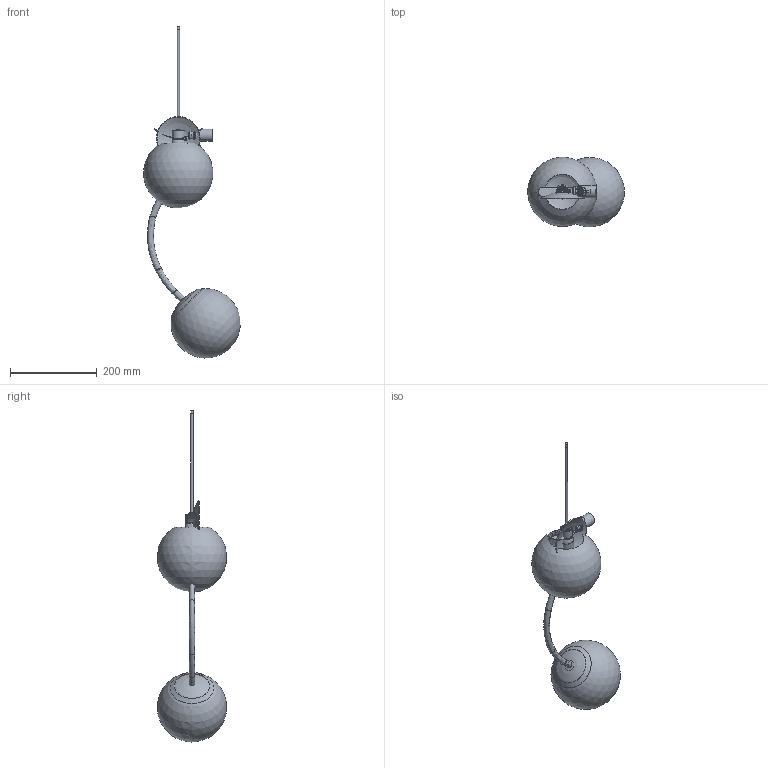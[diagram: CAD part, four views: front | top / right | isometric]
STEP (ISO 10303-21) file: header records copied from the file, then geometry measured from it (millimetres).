
FILE_DESCRIPTION( ( 'Unknown' ), '1' );
FILE_NAME( '//MMS001/Pubblica/PROGETTI MM LAMPADARI/7428 ESSE/7428BMP2TR2 BRACCIO GRANDE.stp', 'Unknown', ( 'Unknown' ), ( 'Unknown' ), 'XStep 1.0', 'Unknown', ' ' );
FILE_SCHEMA( ( 'automotive_design' ) );
Length unit declared in the file: millimetre
Products named in the file (16): Assem1; Assem2; 400231108 CAPPELLOTTO E14 BIANCO; 400233112 CAMICIA E14 BIANCA LISCIA; 7428C001 SFERA DUE FILETTI; 400104015 TUBETTO FILETTATO D9,5 L=15; 400104020 TUBETTO FILETTATO D9,5 L=20; 7428C005 PIATTINO BOMBATO; 400116003 BICCHIERINO E14; 400109001 RONDELLA DENTATA M10; 400108502 DADO M10x1; 400343354 SFERA D160 MM BL LUCIDO F.80; 400110034 MOLLA ACCIAIO SP.0,3 MM L.120 MM; 400900848 RACCORDO OT D.13X17 MM M10X1 FIL.M6; 300239020 CAVO 2X0,75 TONDO TRASP. FEP+PVC; 7428C004 BRACCIO GRANDE
Bounding box: 222.65 x 158.28 x 763.43 mm (x, y, z)
Volume: 729133.3 mm3; surface area: 468013.5 mm2
Topology: 30 solids, 30 shells, 985 faces, 2623 edges, 1715 vertices
Faces by surface type: plane 615, cylinder 205, cone 77, bspline 40, torus 38, sphere 10
Full cylindrical faces by diameter (mm): 1.567 x3, 2 x3, 3 x3, 4.917 x2, 6 x2, 7 x2, 8 x6, 8.917 x10, 10 x8, 10.25 x6, 12 x4, 13 x2, 14 x2, 16 x3, 20 x3, 22.5 x15, 28 x6, 32 x2, 33 x2, 80 x2
Entity records: 16541 total; most frequent: CARTESIAN_POINT 6617, DIRECTION 1871, ORIENTED_EDGE 1778, EDGE_CURVE 889, AXIS2_PLACEMENT_3D 714, VERTEX_POINT 616, EDGE_LOOP 469, LINE 443
